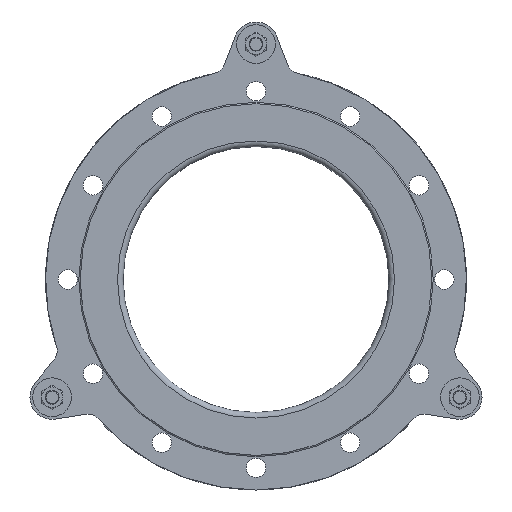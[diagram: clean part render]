
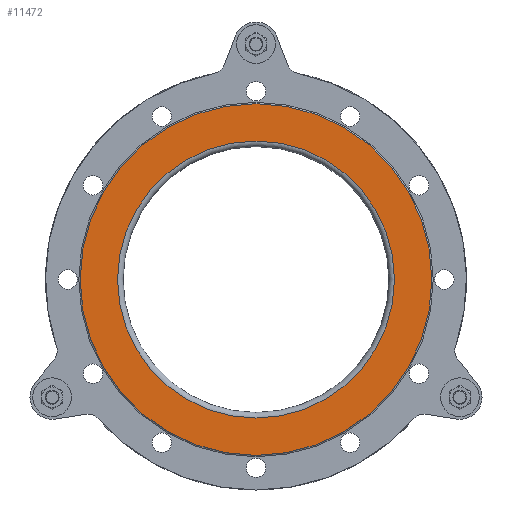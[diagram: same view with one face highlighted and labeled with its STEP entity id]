
A CAD part, left-side view. The second image highlights one B-rep face of the part: STEP entity #11472.
In plain terms, the highlighted planar face has unit normal (-1, 0, 0).
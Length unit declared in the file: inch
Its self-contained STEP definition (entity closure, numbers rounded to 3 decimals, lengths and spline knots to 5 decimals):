
#644=FACE_BOUND('',#3059,.T.);
#1529=PLANE('',#12731);
#2102=FACE_OUTER_BOUND('',#3058,.T.);
#3058=EDGE_LOOP('',(#9585));
#3059=EDGE_LOOP('',(#9586));
#3873=CIRCLE('',#12730,7.9375);
#3874=CIRCLE('',#12732,6.25);
#5716=VERTEX_POINT('',#19957);
#5717=VERTEX_POINT('',#19960);
#7056=EDGE_CURVE('',#5716,#5716,#3873,.T.);
#7057=EDGE_CURVE('',#5717,#5717,#3874,.T.);
#9585=ORIENTED_EDGE('',*,*,#7056,.T.);
#9586=ORIENTED_EDGE('',*,*,#7057,.F.);
#11472=ADVANCED_FACE('',(#2102,#644),#1529,.T.);
#12730=AXIS2_PLACEMENT_3D('',#19958,#15332,#15333);
#12731=AXIS2_PLACEMENT_3D('',#19959,#15334,#15335);
#12732=AXIS2_PLACEMENT_3D('',#19961,#15336,#15337);
#15332=DIRECTION('center_axis',(-1.,0.,0.));
#15333=DIRECTION('ref_axis',(0.,-1.,0.));
#15334=DIRECTION('center_axis',(-1.,0.,0.));
#15335=DIRECTION('ref_axis',(0.,-1.,0.));
#15336=DIRECTION('center_axis',(-1.,0.,0.));
#15337=DIRECTION('ref_axis',(0.,-1.,0.));
#19957=CARTESIAN_POINT('',(-3.,0.,7.9375));
#19958=CARTESIAN_POINT('Origin',(-3.,0.,0.));
#19959=CARTESIAN_POINT('Origin',(-3.,0.,6.25));
#19960=CARTESIAN_POINT('',(-3.,0.,6.25));
#19961=CARTESIAN_POINT('Origin',(-3.,0.,0.));
